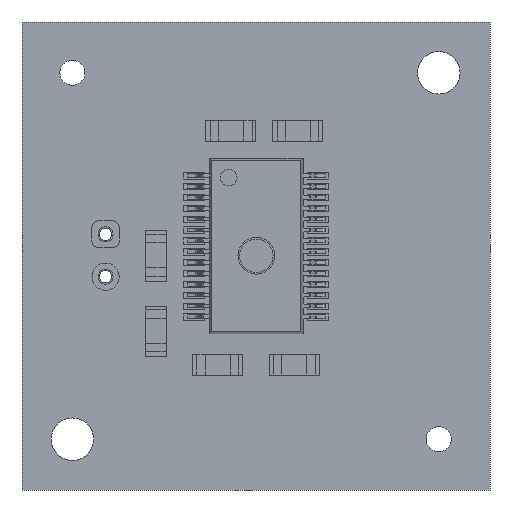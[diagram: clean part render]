
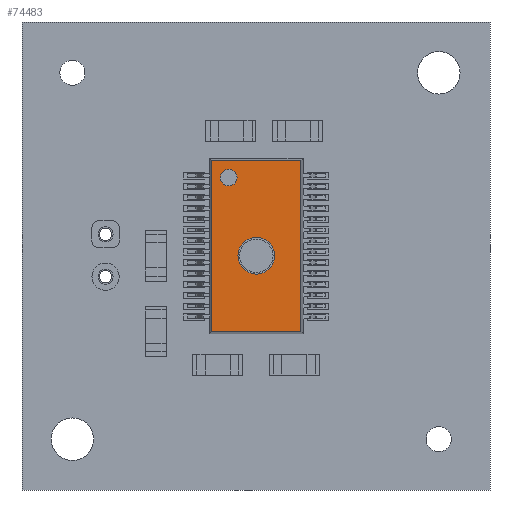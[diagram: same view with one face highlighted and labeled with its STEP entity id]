
A CAD part, front view. The second image highlights one B-rep face of the part: STEP entity #74483.
In plain terms, the highlighted planar face has unit normal (0, -1, 0).
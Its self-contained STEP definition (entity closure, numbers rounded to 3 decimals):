
#1017 = EDGE_CURVE ( 'NONE', #86716, #82470, #21412, .T. ) ;
#1907 = DIRECTION ( 'NONE',  ( 0., 0., -1. ) ) ;
#1911 = CARTESIAN_POINT ( 'NONE',  ( -16.651, -3.531, -5.709 ) ) ;
#2096 = EDGE_LOOP ( 'NONE', ( #71317, #61629 ) ) ;
#9114 = DIRECTION ( 'NONE',  ( 0., 1., 0. ) ) ;
#11305 = ORIENTED_EDGE ( 'NONE', *, *, #56752, .T. ) ;
#12733 = EDGE_CURVE ( 'NONE', #23372, #34705, #14821, .T. ) ;
#13479 = CARTESIAN_POINT ( 'NONE',  ( -15.635, -3.531, -7.225 ) ) ;
#14750 = DIRECTION ( 'NONE',  ( 0., 0., -1. ) ) ;
#14821 = CIRCLE ( 'NONE', #30588, 0.5 ) ;
#15849 = CARTESIAN_POINT ( 'NONE',  ( -13.982, -3.531, -11.398 ) ) ;
#18927 = CARTESIAN_POINT ( 'NONE',  ( -11.182, -3.531, -5.709 ) ) ;
#20276 = ORIENTED_EDGE ( 'NONE', *, *, #31585, .F. ) ;
#21412 = LINE ( 'NONE', #56890, #50417 ) ;
#22503 = CARTESIAN_POINT ( 'NONE',  ( -11.313, -3.531, -15.948 ) ) ;
#22712 = DIRECTION ( 'NONE',  ( 0., 0., -1. ) ) ;
#23372 = VERTEX_POINT ( 'NONE', #75440 ) ;
#28019 = FACE_BOUND ( 'NONE', #31622, .T. ) ;
#29197 = VERTEX_POINT ( 'NONE', #22503 ) ;
#30588 = AXIS2_PLACEMENT_3D ( 'NONE', #49386, #78135, #70911 ) ;
#30886 = VERTEX_POINT ( 'NONE', #31175 ) ;
#31175 = CARTESIAN_POINT ( 'NONE',  ( -11.313, -3.531, -5.709 ) ) ;
#31260 = CARTESIAN_POINT ( 'NONE',  ( -16.651, -3.531, -15.948 ) ) ;
#31585 = EDGE_CURVE ( 'NONE', #32045, #76518, #37581, .T. ) ;
#31622 = EDGE_LOOP ( 'NONE', ( #20276, #86863 ) ) ;
#32045 = VERTEX_POINT ( 'NONE', #72824 ) ;
#34642 = EDGE_LOOP ( 'NONE', ( #11305, #47743, #38541, #53908 ) ) ;
#34672 = EDGE_CURVE ( 'NONE', #29197, #30886, #68573, .T. ) ;
#34705 = VERTEX_POINT ( 'NONE', #13479 ) ;
#36775 = DIRECTION ( 'NONE',  ( 0., -1., 0. ) ) ;
#37581 = CIRCLE ( 'NONE', #85496, 1.1 ) ;
#38541 = ORIENTED_EDGE ( 'NONE', *, *, #52272, .T. ) ;
#38621 = CIRCLE ( 'NONE', #55994, 1.1 ) ;
#40904 = CARTESIAN_POINT ( 'NONE',  ( -17.091, -3.531, -5.011 ) ) ;
#41108 = CIRCLE ( 'NONE', #79599, 0.5 ) ;
#41210 = DIRECTION ( 'NONE',  ( 0., 0., -1. ) ) ;
#47743 = ORIENTED_EDGE ( 'NONE', *, *, #1017, .T. ) ;
#48044 = CARTESIAN_POINT ( 'NONE',  ( -13.982, -3.531, -11.398 ) ) ;
#49386 = CARTESIAN_POINT ( 'NONE',  ( -15.635, -3.531, -6.725 ) ) ;
#49599 = VECTOR ( 'NONE', #83371, 1000. ) ;
#50417 = VECTOR ( 'NONE', #14750, 1000. ) ;
#51726 = DIRECTION ( 'NONE',  ( 0., -1., 0. ) ) ;
#52272 = EDGE_CURVE ( 'NONE', #82470, #29197, #61345, .T. ) ;
#53908 = ORIENTED_EDGE ( 'NONE', *, *, #34672, .T. ) ;
#55889 = DIRECTION ( 'NONE',  ( 0., -1., 0. ) ) ;
#55994 = AXIS2_PLACEMENT_3D ( 'NONE', #15849, #51726, #22712 ) ;
#56752 = EDGE_CURVE ( 'NONE', #30886, #86716, #87285, .T. ) ;
#56890 = CARTESIAN_POINT ( 'NONE',  ( -16.651, -3.531, -5.578 ) ) ;
#58608 = DIRECTION ( 'NONE',  ( 0., 0., -1. ) ) ;
#59709 = CARTESIAN_POINT ( 'NONE',  ( -13.982, -3.531, -10.298 ) ) ;
#60961 = CARTESIAN_POINT ( 'NONE',  ( -11.182, -3.531, -15.948 ) ) ;
#61345 = LINE ( 'NONE', #60961, #87009 ) ;
#61629 = ORIENTED_EDGE ( 'NONE', *, *, #12733, .T. ) ;
#67410 = CARTESIAN_POINT ( 'NONE',  ( -15.635, -3.531, -6.725 ) ) ;
#68392 = CARTESIAN_POINT ( 'NONE',  ( -11.313, -3.531, -5.578 ) ) ;
#68573 = LINE ( 'NONE', #68392, #49599 ) ;
#69291 = PLANE ( 'NONE',  #85297 ) ;
#69339 = VECTOR ( 'NONE', #75048, 1000. ) ;
#70911 = DIRECTION ( 'NONE',  ( 0., 0., -1. ) ) ;
#71317 = ORIENTED_EDGE ( 'NONE', *, *, #89185, .T. ) ;
#72824 = CARTESIAN_POINT ( 'NONE',  ( -13.982, -3.531, -12.498 ) ) ;
#74060 = DIRECTION ( 'NONE',  ( 1., 0., 0. ) ) ;
#74483 = ADVANCED_FACE ( 'NONE', ( #28019, #82704, #84964 ), #69291, .T. ) ;
#75048 = DIRECTION ( 'NONE',  ( -1., 0., 0. ) ) ;
#75440 = CARTESIAN_POINT ( 'NONE',  ( -15.635, -3.531, -6.225 ) ) ;
#76518 = VERTEX_POINT ( 'NONE', #59709 ) ;
#78135 = DIRECTION ( 'NONE',  ( 0., 1., 0. ) ) ;
#79599 = AXIS2_PLACEMENT_3D ( 'NONE', #67410, #9114, #1907 ) ;
#82470 = VERTEX_POINT ( 'NONE', #31260 ) ;
#82704 = FACE_BOUND ( 'NONE', #2096, .T. ) ;
#83371 = DIRECTION ( 'NONE',  ( 0., 0., 1. ) ) ;
#84476 = EDGE_CURVE ( 'NONE', #76518, #32045, #38621, .T. ) ;
#84964 = FACE_OUTER_BOUND ( 'NONE', #34642, .T. ) ;
#85297 = AXIS2_PLACEMENT_3D ( 'NONE', #40904, #55889, #41210 ) ;
#85496 = AXIS2_PLACEMENT_3D ( 'NONE', #48044, #36775, #58608 ) ;
#86716 = VERTEX_POINT ( 'NONE', #1911 ) ;
#86863 = ORIENTED_EDGE ( 'NONE', *, *, #84476, .F. ) ;
#87009 = VECTOR ( 'NONE', #74060, 1000. ) ;
#87285 = LINE ( 'NONE', #18927, #69339 ) ;
#89185 = EDGE_CURVE ( 'NONE', #34705, #23372, #41108, .T. ) ;
